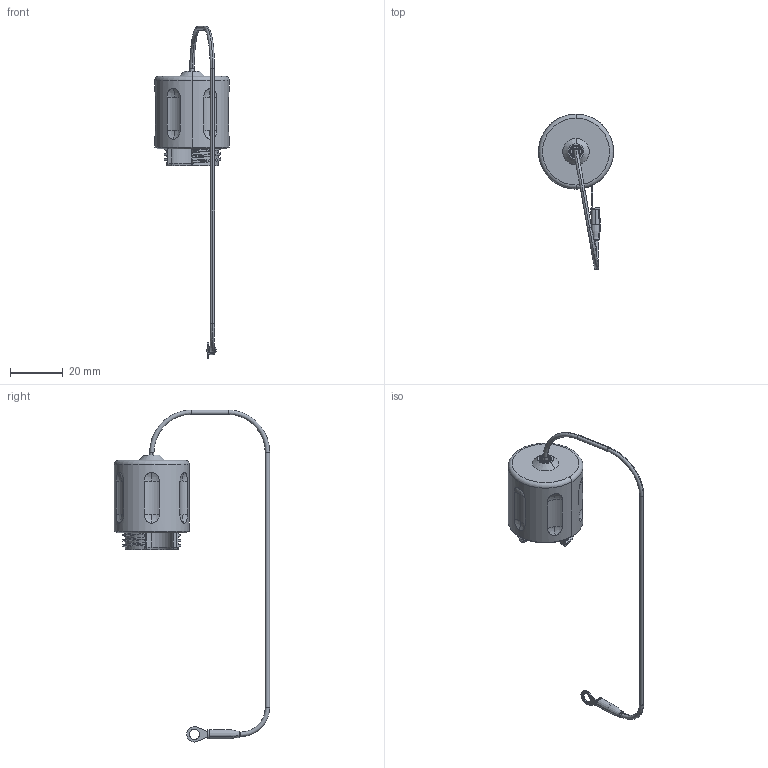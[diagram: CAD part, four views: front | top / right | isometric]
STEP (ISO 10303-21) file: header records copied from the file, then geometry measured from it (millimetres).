
FILE_DESCRIPTION (( 'STEP AP214' ), '1' );
FILE_NAME ('QMINI90-DCHPX.STEP', '2025-05-22T23:04:04', ( '' ), ( '' ), 'SwSTEP 2.0', 'SolidWorks 2024', '' );
FILE_SCHEMA (( 'AUTOMOTIVE_DESIGN' ));
Length unit declared in the file: inch
Products named in the file (1): QMINI90-DCHPX
Bounding box: 28.35 x 58.77 x 125.67 mm (x, y, z)
Volume: 15574.2 mm3; surface area: 8110 mm2
Topology: 4 solids, 4 shells, 265 faces, 724 edges, 460 vertices
Faces by surface type: cylinder 108, plane 45, cone 43, bspline 27, sphere 24, torus 18
Entity records: 13723 total; most frequent: CARTESIAN_POINT 7558, ORIENTED_EDGE 1448, DIRECTION 1108, EDGE_CURVE 724, VERTEX_POINT 460, AXIS2_PLACEMENT_3D 455, EDGE_LOOP 286, ADVANCED_FACE 265
